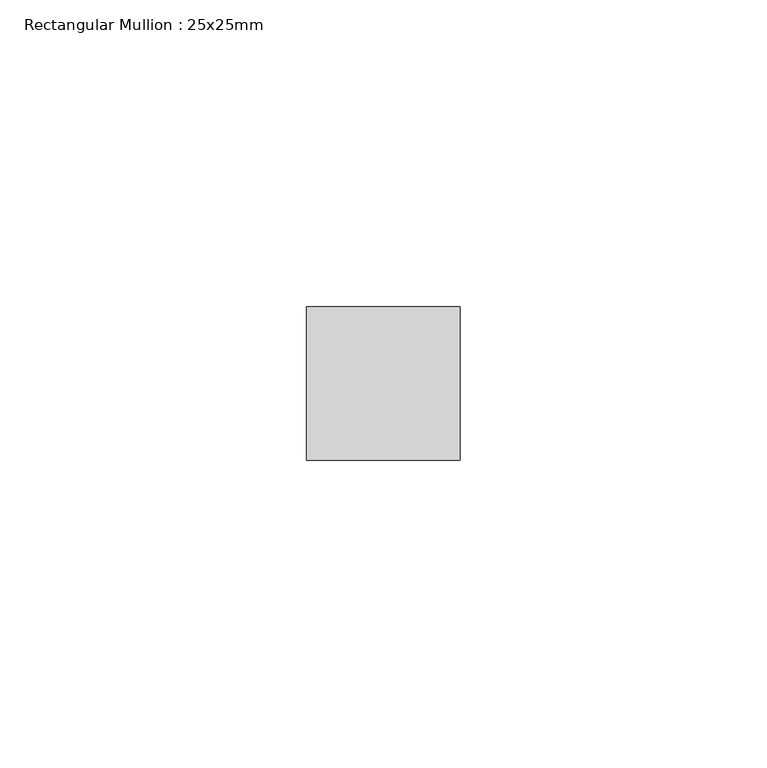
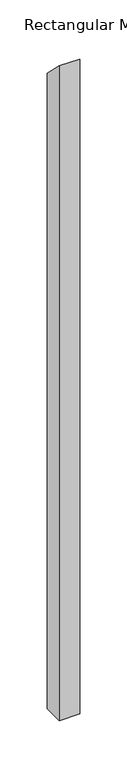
"""IFC4 building model written with IfcOpenShell, lengths in millimetres: member geometry, Rectangular Mullion : 25x25mm."""

import ifcopenshell
import ifcopenshell.guid

model = None  # the IFC model being written
_history = None  # IfcOwnerHistory: only IFC2X3 demands one
_inside = {}  # id of a spatial element -> (the spatial element, [elements in it])
_under = {}  # id of a project, library or spatial element -> (it, [spatial elements below it])
_declared = {}  # id of a project -> (the project, [libraries it declares])
_typed = {}  # id of a type object -> (the type object, [elements of that type])
_made_of = {}  # id of a material, layer set ... -> (it, [elements and type objects made of it])


def new_model(schema):
    """Start an empty IFC model of exactly this schema.

    Asked for "IFC4X3", IfcOpenShell would pick the latest addendum, in which some entities
    have other attributes; the version numbers below select the first issue.
    IFC2X3 requires an IfcOwnerHistory on every rooted entity: one is made here for all.
    """
    global model, _history
    if schema == "IFC4X3":
        model = ifcopenshell.file(schema_version=(4, 3, 0, 0))
    else:
        model = ifcopenshell.file(schema=schema)
    _inside.clear()
    _under.clear()
    _declared.clear()
    _typed.clear()
    _made_of.clear()
    _history = None
    if model.schema == "IFC2X3":
        org = make("IfcOrganization", Name="unknown")
        user = make(
            "IfcPersonAndOrganization",
            ThePerson=make("IfcPerson", FamilyName="unknown"),
            TheOrganization=org,
        )
        app = make(
            "IfcApplication",
            ApplicationDeveloper=org,
            Version="unknown",
            ApplicationFullName="unknown",
            ApplicationIdentifier="unknown",
        )
        _history = make(
            "IfcOwnerHistory",
            OwningUser=user,
            OwningApplication=app,
            ChangeAction="ADDED",
            CreationDate=0,
        )
    return model


def make(cls, **values):
    """One entity of the class cls with the attributes given. An attribute that is None is left unset."""
    return model.create_entity(
        cls, **{name: value for name, value in values.items() if value is not None}
    )


def rooted(cls, **values):
    """An entity with a GlobalId (a new one), such as an element, a storey or a relation."""
    return make(cls, GlobalId=ifcopenshell.guid.new(), OwnerHistory=_history, **values)


def si_unit(unit_type, name, prefix=None):
    """IfcSIUnit, for example si_unit("LENGTHUNIT", "METRE", prefix="MILLI")."""
    return make("IfcSIUnit", UnitType=unit_type, Prefix=prefix, Name=name)


def assignment(units):
    """IfcUnitAssignment: the units of a project."""
    return None if units is None else make("IfcUnitAssignment", Units=units)


def point(xyz):
    """IfcCartesianPoint."""
    return None if xyz is None else make("IfcCartesianPoint", Coordinates=xyz)


def direction(xyz):
    """IfcDirection."""
    return None if xyz is None else make("IfcDirection", DirectionRatios=xyz)


def frame(location, z_axis=None, x_axis=None):
    """IfcAxis2Placement3D, a coordinate frame: its origin and axes. An axis left out is left unset."""
    return make(
        "IfcAxis2Placement3D",
        Location=point(location),
        Axis=direction(z_axis),
        RefDirection=direction(x_axis),
    )


def origin():
    """The frame at (0, 0, 0) with its axes left unset."""
    return frame((0.0, 0.0, 0.0))


def place(relative_to, where):
    """IfcLocalPlacement: puts the frame where relative to a parent placement (None: the world)."""
    return make(
        "IfcLocalPlacement", PlacementRelTo=relative_to, RelativePlacement=where
    )


def context(
    kind, dimensions, precision=None, world=None, true_north=None, identifier=None
):
    """IfcGeometricRepresentationContext, for example the 3D "Model" context."""
    return make(
        "IfcGeometricRepresentationContext",
        ContextIdentifier=identifier,
        ContextType=kind,
        CoordinateSpaceDimension=dimensions,
        Precision=precision,
        WorldCoordinateSystem=world,
        TrueNorth=true_north,
    )


def project(units=None, contexts=None):
    """IfcProject with its units and contexts."""
    return rooted(
        "IfcProject",
        Name="project",
        RepresentationContexts=contexts,
        UnitsInContext=assignment(units),
    )


def spatial(cls, under=None, at=None, **own):
    """A site, building, storey or space (cls), placed at a placement, below another one or the project."""
    s = rooted(cls, ObjectPlacement=at, **own)
    if under is not None:
        _under.setdefault(under.id(), (under, []))[1].append(s)
    return s


def polyline(points):
    """IfcPolyline through the points."""
    return make("IfcPolyline", Points=[point(p) for p in points])


def outline(outer, holes=None, kind="AREA"):
    """IfcArbitraryClosedProfileDef: a profile drawn as a closed curve; with holes, ...WithVoids."""
    if holes is None:
        return make("IfcArbitraryClosedProfileDef", ProfileType=kind, OuterCurve=outer)
    return make(
        "IfcArbitraryProfileDefWithVoids",
        ProfileType=kind,
        OuterCurve=outer,
        InnerCurves=holes,
    )


def extrude(swept, where, along, depth):
    """IfcExtrudedAreaSolid: the profile swept, set in the frame where, extruded along a direction by depth."""
    return make(
        "IfcExtrudedAreaSolid",
        SweptArea=swept,
        Position=where,
        ExtrudedDirection=direction(along),
        Depth=depth,
    )


def shape(context_of_items, identifier, shape_type, items):
    """IfcShapeRepresentation: the items that make up one representation, for example the "Body"."""
    return make(
        "IfcShapeRepresentation",
        ContextOfItems=context_of_items,
        RepresentationIdentifier=identifier,
        RepresentationType=shape_type,
        Items=items,
    )


def source(mapping_origin, context_of_items, identifier, shape_type, items):
    """IfcRepresentationMap: a shape defined once, which mapped items show again and again."""
    return make(
        "IfcRepresentationMap",
        MappingOrigin=mapping_origin,
        MappedRepresentation=shape(context_of_items, identifier, shape_type, items),
    )


def transform(
    local_origin,
    x_axis=None,
    y_axis=None,
    z_axis=None,
    scale=None,
    scale2=None,
    scale3=None,
    uniform=True,
):
    """IfcCartesianTransformationOperator3D, or its non-uniform kind. x_axis, y_axis, z_axis: its Axis1, 2, 3."""
    if uniform:
        return make(
            "IfcCartesianTransformationOperator3D",
            Axis1=direction(x_axis),
            Axis2=direction(y_axis),
            LocalOrigin=point(local_origin),
            Scale=scale,
            Axis3=direction(z_axis),
        )
    return make(
        "IfcCartesianTransformationOperator3DnonUniform",
        Axis1=direction(x_axis),
        Axis2=direction(y_axis),
        LocalOrigin=point(local_origin),
        Scale=scale,
        Axis3=direction(z_axis),
        Scale2=scale2,
        Scale3=scale3,
    )


def mapped(mapping_source, mapping_target):
    """IfcMappedItem: shows the shape of a source again, moved by a transform."""
    return make(
        "IfcMappedItem", MappingSource=mapping_source, MappingTarget=mapping_target
    )


def made_of(thing, what):
    """Note that an element or type object is made of a material, layer set ...; save() writes the relation."""
    if what is not None:
        _made_of.setdefault(what.id(), (what, []))[1].append(thing)
    return thing


def element(
    cls,
    number,
    at=None,
    inside=None,
    cuts=None,
    type_object=None,
    material=None,
    context=None,
    identifier="Body",
    shape_type=None,
    held_by="IfcProductDefinitionShape",
    body=None,
    shapes=None,
    **own,
):
    """One element of the class cls, such as IfcWall. Its Tag is "e" and its number.

    at: its placement. inside: the storey or other place that contains it. cuts: it is an
    opening in that element (IfcRelVoidsElement). A single representation is given by context,
    identifier, shape_type and body (its items); several are given by shapes. held_by: the class
    of the entity that holds the representations. save() writes the other relations.
    """
    e = rooted(cls, Tag="e%d" % number, ObjectPlacement=at, **own)
    if body is not None:
        shapes = [shape(context, identifier, shape_type, body)]
    if shapes is not None:
        e.Representation = make(held_by, Representations=shapes)
    if inside is not None:
        _inside.setdefault(inside.id(), (inside, []))[1].append(e)
    if cuts is not None:
        rooted(
            "IfcRelVoidsElement", RelatingBuildingElement=cuts, RelatedOpeningElement=e
        )
    if type_object is not None:
        _typed.setdefault(type_object.id(), (type_object, []))[1].append(e)
    return made_of(e, material)


def aggregate(whole, parts):
    """IfcRelAggregates: a whole, such as a stair, and the parts it consists of."""
    return rooted("IfcRelAggregates", RelatingObject=whole, RelatedObjects=parts)


def save(model, path):
    """Write the relations noted so far, then the file.

    IfcRelAggregates (storeys below a building ...), IfcRelContainedInSpatialStructure (elements
    in a storey), IfcRelDefinesByType, IfcRelAssociatesMaterial and IfcRelDeclares: one each for
    every whole, place, type object, material and project.
    """
    for whole, parts in _under.values():
        aggregate(whole, parts)
    for where, things in _inside.values():
        rooted(
            "IfcRelContainedInSpatialStructure",
            RelatedElements=things,
            RelatingStructure=where,
        )
    for kind, things in _typed.values():
        rooted("IfcRelDefinesByType", RelatedObjects=things, RelatingType=kind)
    for what, things in _made_of.values():
        rooted("IfcRelAssociatesMaterial", RelatedObjects=things, RelatingMaterial=what)
    for by, libraries in _declared.values():
        rooted("IfcRelDeclares", RelatingContext=by, RelatedDefinitions=libraries)
    model.write(path)


def rectangular_mullion_25x25mm_ea8cc668(model_context):
    return source(origin(), model_context, "Body", "SweptSolid", [
        extrude(outline(polyline([(-24.5, 24.5), (0.5, -0.5), (0.5, -820.8333336), (-24.5, -820.8333336), (-24.5, 24.5)])), frame((-25.0, 0.0, 0.0), z_axis=(1.0, 0.0, 0.0), x_axis=(0.0, 1.0, 0.0)), (0.0, 0.0, 1.0), 25.0),
    ])


if __name__ == "__main__":
    model = new_model("IFC4")
    model_context = context("Model", 3, world=origin())
    ifc_project = project(units=[si_unit("LENGTHUNIT", "METRE", prefix="MILLI")], contexts=[model_context])
    site = spatial("IfcSite", under=ifc_project)
    building = spatial("IfcBuilding", under=site)
    placement = place(None, origin())
    rectangular_mullion_25x25mm_shape = rectangular_mullion_25x25mm_ea8cc668(model_context)
    element("IfcMember", 1, ObjectType="Rectangular Mullion : 25x25mm", at=placement, inside=building, context=model_context, shape_type="MappedRepresentation", body=[
        mapped(rectangular_mullion_25x25mm_shape, transform((0.0, 0.0, 0.0), x_axis=(1.0, 0.0, 0.0), y_axis=(0.0, 1.0, 0.0), z_axis=(0.0, 0.0, 1.0))),
    ])
    save(model, "model.ifc")
